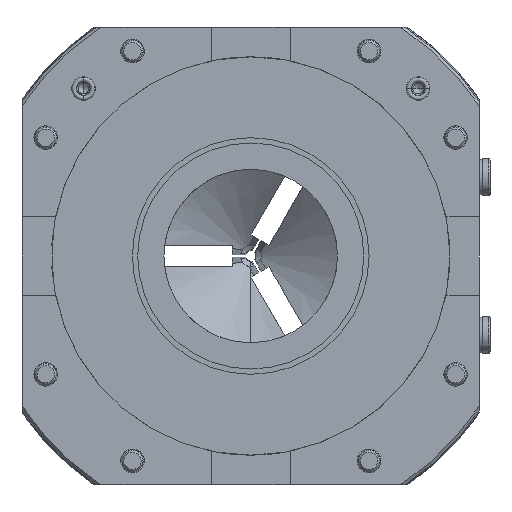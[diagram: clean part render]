
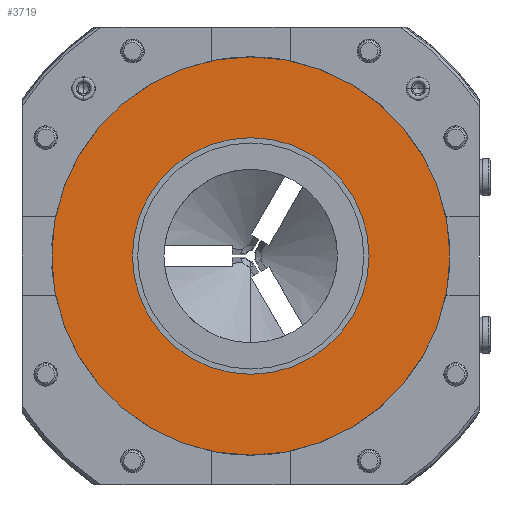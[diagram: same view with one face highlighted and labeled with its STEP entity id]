
A CAD part, front view. The second image highlights one B-rep face of the part: STEP entity #3719.
In plain terms, the highlighted planar face has unit normal (0, -1, 0).
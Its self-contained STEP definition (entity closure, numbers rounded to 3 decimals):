
#82 = EDGE_CURVE ( 'NONE', #137, #125, #2293, .T. ) ;
#84 = VERTEX_POINT ( 'NONE', #2339 ) ;
#97 = EDGE_CURVE ( 'NONE', #140, #84, #2320, .T. ) ;
#125 = VERTEX_POINT ( 'NONE', #2453 ) ;
#137 = VERTEX_POINT ( 'NONE', #2441 ) ;
#140 = VERTEX_POINT ( 'NONE', #2117 ) ;
#2117 = CARTESIAN_POINT ( 'NONE',  ( 0., 11.35, 78.5 ) ) ;
#2293 = CIRCLE ( 'NONE', #2328, 45. ) ;
#2320 = CIRCLE ( 'NONE', #2370, 78.5 ) ;
#2326 = DIRECTION ( 'NONE',  ( 0., 0., -1. ) ) ;
#2327 = DIRECTION ( 'NONE',  ( 0., 1., 0. ) ) ;
#2328 = AXIS2_PLACEMENT_3D ( 'NONE', #2340, #2327, #2326 ) ;
#2339 = CARTESIAN_POINT ( 'NONE',  ( 0., 11.35, -78.5 ) ) ;
#2340 = CARTESIAN_POINT ( 'NONE',  ( 0., 11.35, 0. ) ) ;
#2358 = DIRECTION ( 'NONE',  ( 0., 0., 1. ) ) ;
#2359 = DIRECTION ( 'NONE',  ( 0., -1., 0. ) ) ;
#2360 = CARTESIAN_POINT ( 'NONE',  ( 0., 11.35, 0. ) ) ;
#2370 = AXIS2_PLACEMENT_3D ( 'NONE', #2360, #2359, #2358 ) ;
#2441 = CARTESIAN_POINT ( 'NONE',  ( 0., 11.35, -45. ) ) ;
#2453 = CARTESIAN_POINT ( 'NONE',  ( 0., 11.35, 45. ) ) ;
#3171 = EDGE_CURVE ( 'NONE', #125, #137, #8620, .T. ) ;
#3352 = ORIENTED_EDGE ( 'NONE', *, *, #3730, .T. ) ;
#3693 = EDGE_LOOP ( 'NONE', ( #4506, #4410 ) ) ;
#3697 = ORIENTED_EDGE ( 'NONE', *, *, #97, .T. ) ;
#3719 = ADVANCED_FACE ( 'NONE', ( #8685, #8731 ), #8687, .T. ) ;
#3730 = EDGE_CURVE ( 'NONE', #84, #140, #8728, .T. ) ;
#3872 = EDGE_LOOP ( 'NONE', ( #3697, #3352 ) ) ;
#4410 = ORIENTED_EDGE ( 'NONE', *, *, #3171, .T. ) ;
#4506 = ORIENTED_EDGE ( 'NONE', *, *, #82, .T. ) ;
#8605 = AXIS2_PLACEMENT_3D ( 'NONE', #8666, #8665, #8664 ) ;
#8620 = CIRCLE ( 'NONE', #8605, 45. ) ;
#8664 = DIRECTION ( 'NONE',  ( 0., 0., -1. ) ) ;
#8665 = DIRECTION ( 'NONE',  ( 0., 1., 0. ) ) ;
#8666 = CARTESIAN_POINT ( 'NONE',  ( 0., 11.35, 0. ) ) ;
#8677 = CARTESIAN_POINT ( 'NONE',  ( 0., 11.35, 0. ) ) ;
#8678 = AXIS2_PLACEMENT_3D ( 'NONE', #8677, #8686, #8727 ) ;
#8685 = FACE_OUTER_BOUND ( 'NONE', #3872, .T. ) ;
#8686 = DIRECTION ( 'NONE',  ( 0., -1., 0. ) ) ;
#8687 = PLANE ( 'NONE',  #8678 ) ;
#8721 = DIRECTION ( 'NONE',  ( 0., 0., 1. ) ) ;
#8722 = DIRECTION ( 'NONE',  ( 0., -1., 0. ) ) ;
#8723 = AXIS2_PLACEMENT_3D ( 'NONE', #8729, #8722, #8721 ) ;
#8727 = DIRECTION ( 'NONE',  ( 0., 0., -1. ) ) ;
#8728 = CIRCLE ( 'NONE', #8723, 78.5 ) ;
#8729 = CARTESIAN_POINT ( 'NONE',  ( 0., 11.35, 0. ) ) ;
#8731 = FACE_BOUND ( 'NONE', #3693, .T. ) ;
